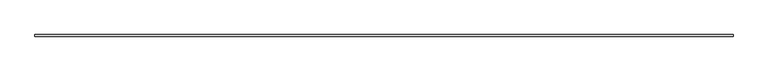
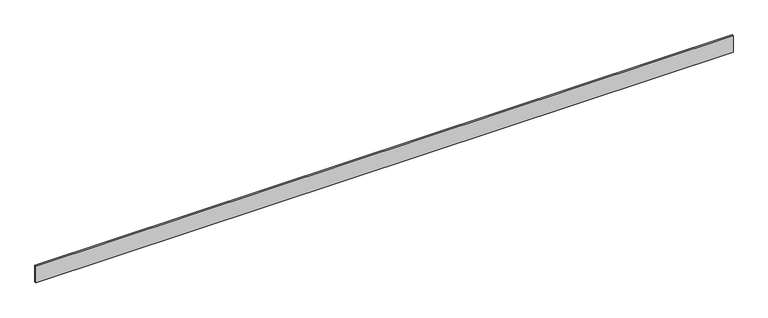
"""IFC4 building model written with IfcOpenShell, lengths in millimetres: beam geometry, Trus Joist - Rim Board Material : TJ® Rim Board – 11 7/8 x 1 1/8”."""

from ifc_helpers import new_model, si_unit, frame, origin, place, context, project, spatial, polyline, outline, extrude, source, transform, mapped, element, save


def beam_9df2ec0b(model_context):
    return source(origin(), model_context, "Body", "SweptSolid", [
        extrude(outline(polyline([(6057.9, 14.2875), (6057.9, -14.2875), (-6057.9, -14.2875), (-6057.9, 14.2875), (6057.9, 14.2875)])), frame((0.0, 0.0, -150.8125), z_axis=(0.0, 0.0, 1.0), x_axis=(1.0, 0.0, 0.0)), (0.0, 0.0, 1.0), 301.625),
    ])


if __name__ == "__main__":
    model = new_model("IFC4")
    model_context = context("Model", 3, world=origin())
    ifc_project = project(units=[si_unit("LENGTHUNIT", "METRE", prefix="MILLI")], contexts=[model_context])
    site = spatial("IfcSite", under=ifc_project)
    building = spatial("IfcBuilding", under=site)
    placement = place(None, origin())
    beam_shape = beam_9df2ec0b(model_context)
    element("IfcBeam", 1, ObjectType="Trus Joist - Rim Board Material : TJ® Rim Board – 11 7/8 x 1 1/8”", at=placement, inside=building, context=model_context, shape_type="MappedRepresentation", body=[
        mapped(beam_shape, transform((0.0, 0.0, 0.0), x_axis=(1.0, 0.0, 0.0), y_axis=(0.0, 1.0, 0.0), z_axis=(0.0, 0.0, 1.0))),
    ])
    save(model, "model.ifc")
